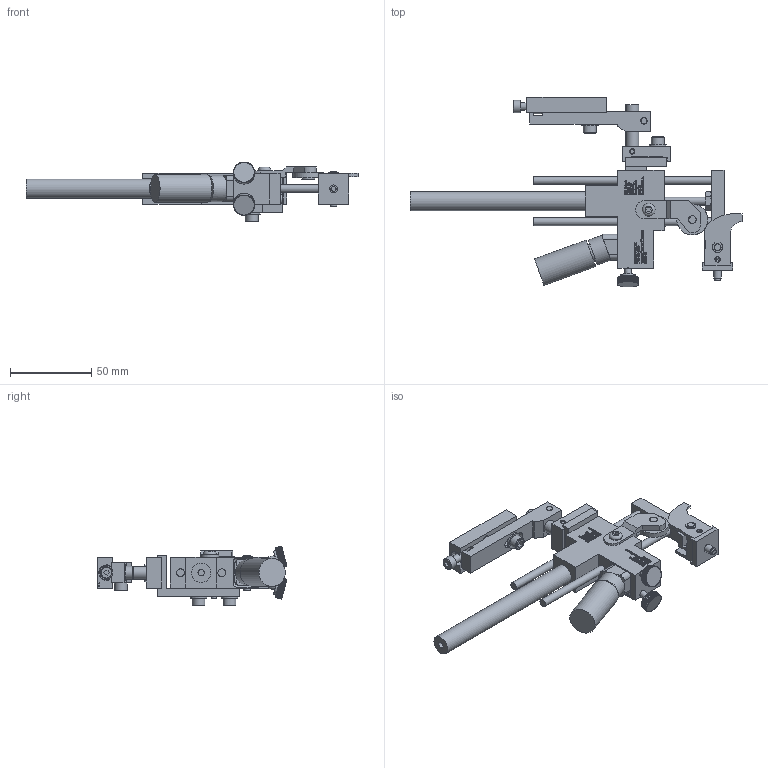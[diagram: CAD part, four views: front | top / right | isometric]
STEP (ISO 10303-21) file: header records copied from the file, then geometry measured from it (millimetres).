
FILE_DESCRIPTION((''),'2;1');
FILE_NAME('C:\Documents and Settings\Ron\My Documents\Inventor\Sprinter Drawing\Machines in Inventor\Model 44\Dot\1-eight\Ext Str\E1\Brkt\90\Model 44 ES1 .125 Dia Dot 90 Deg w brkt.stp','2009-01-14T12:49:36',('Ron'),(''),'Autodesk Inventor 2008','Autodesk Inventor 2008','');
FILE_SCHEMA(('AUTOMOTIVE_DESIGN { 1 0 10303 214 1 1 1 1 }'));
Length unit declared in the file: inch
Products named in the file (1): Model 44 ES1 .125 Dia Dot 90 Deg w brkt
Bounding box: 204.75 x 117.12 x 36.82 mm (x, y, z)
Volume: 107436.5 mm3; surface area: 51939.7 mm2
Topology: 382 solids, 382 shells, 6188 faces, 15365 edges, 9498 vertices
Faces by surface type: plane 4345, bspline 1317, cylinder 473, cone 48, torus 5
Full cylindrical faces by diameter (mm): 3.175 x5, 3.302 x1, 3.962 x1, 4.064 x7, 4.166 x1, 4.699 x1, 4.75 x4, 4.775 x1, 4.826 x8, 5.144 x1, 5.156 x5, 5.207 x2, 5.41 x2, 6.096 x1, 6.274 x2, 7.239 x1, 7.62 x1, 7.925 x7, 7.938 x1, 8.128 x1, 9.017 x1, 9.525 x2, 10.312 x4, 10.922 x1, 11.036 x1, 11.938 x2, 14.478 x1, 16.256 x1, 17.272 x1, 19.05 x1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
Entity records: 197035 total; most frequent: CARTESIAN_POINT 53977, ORIENTED_EDGE 30278, DIRECTION 23499, EDGE_CURVE 15139, VECTOR 11377, LINE 11377, VERTEX_POINT 9428, EDGE_LOOP 6743
